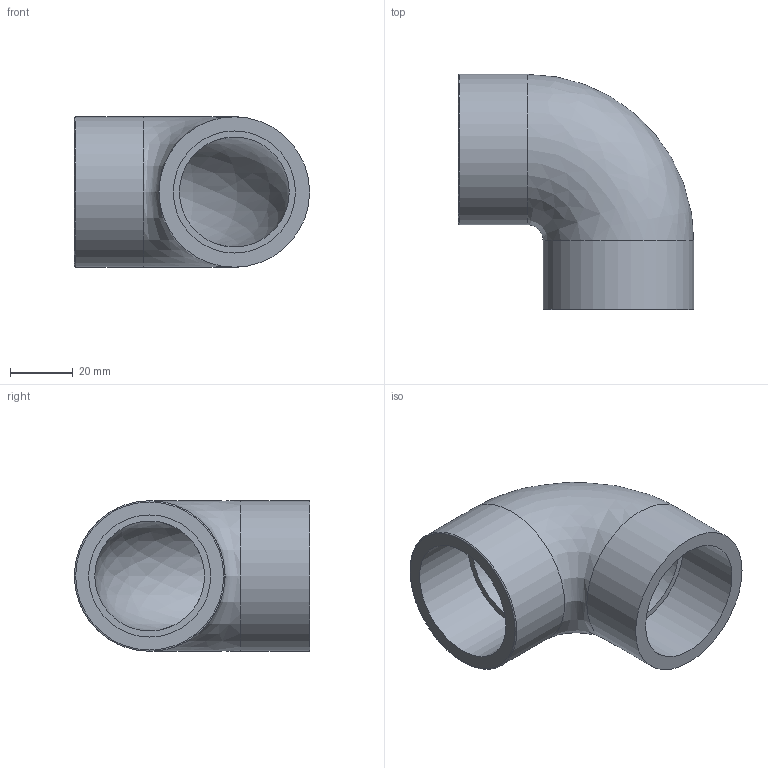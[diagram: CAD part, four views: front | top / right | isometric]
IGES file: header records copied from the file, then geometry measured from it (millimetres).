
Global section: file name: 050501013.ipt; native system: Autodesk Inventor 2015; preprocessor: unknown; author: KIM; date: 20171207.164637; units: millimetre
Bounding box: 75 x 75 x 48 mm (x, y, z)
Volume: 65644.3 mm3; surface area: 25568.9 mm2
Topology: 1 solids, 1 shells, 11 faces, 25 edges, 18 vertices
Faces by surface type: revolution 5, plane 4, cylinder 2
Full cylindrical faces by diameter (mm): 48 x2
